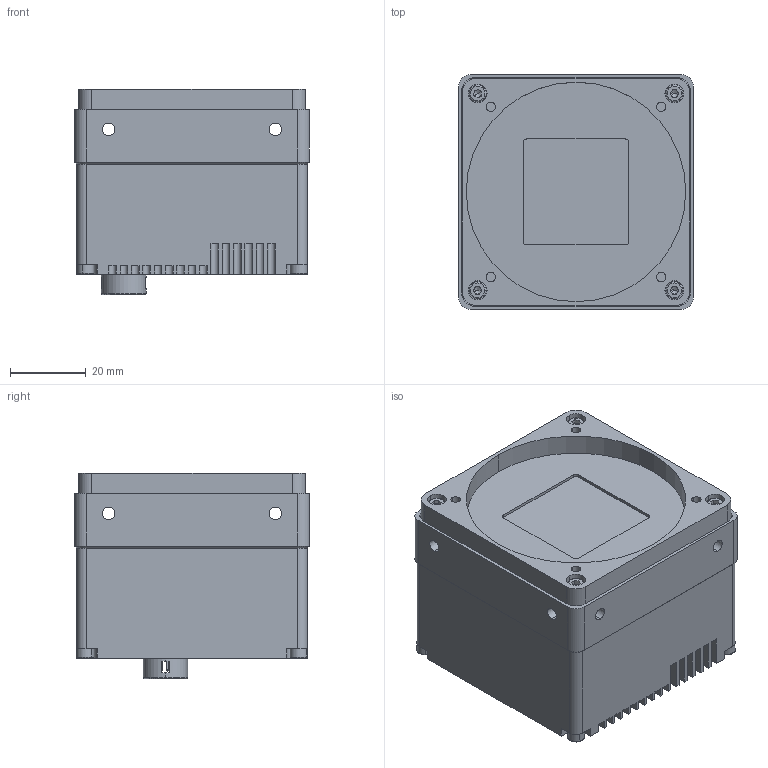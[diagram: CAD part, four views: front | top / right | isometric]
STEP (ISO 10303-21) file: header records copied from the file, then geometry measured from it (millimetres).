
FILE_DESCRIPTION (( 'STEP AP203' ), '1' );
FILE_NAME ('TS25MGV-10M-A02-V1.0.0-三维模型.STEP', '2022-04-22T01:08:26', ( '微软用户' ), ( '微软中国' ), 'SwSTEP 2.0', 'SolidWorks 2017', '' );
FILE_SCHEMA (( 'CONFIG_CONTROL_DESIGN' ));
Length unit declared in the file: millimetre
Products named in the file (1): TS25MGV-10M-A02-V1.0.0-三维模型
Bounding box: 62 x 62 x 54.26 mm (x, y, z)
Surface area: 29355.9 mm2 (no closed solid volume)
Topology: 0 solids, 59 shells, 562 faces, 2110 edges, 1562 vertices
Faces by surface type: plane 323, cylinder 162, cone 58, torus 16, bspline 2, sphere 1
Entity records: 23172 total; most frequent: CARTESIAN_POINT 5232, DIRECTION 3773, ORIENTED_EDGE 3294, EDGE_CURVE 2091, VERTEX_POINT 1560, VECTOR 1391, LINE 1391, AXIS2_PLACEMENT_3D 1191
